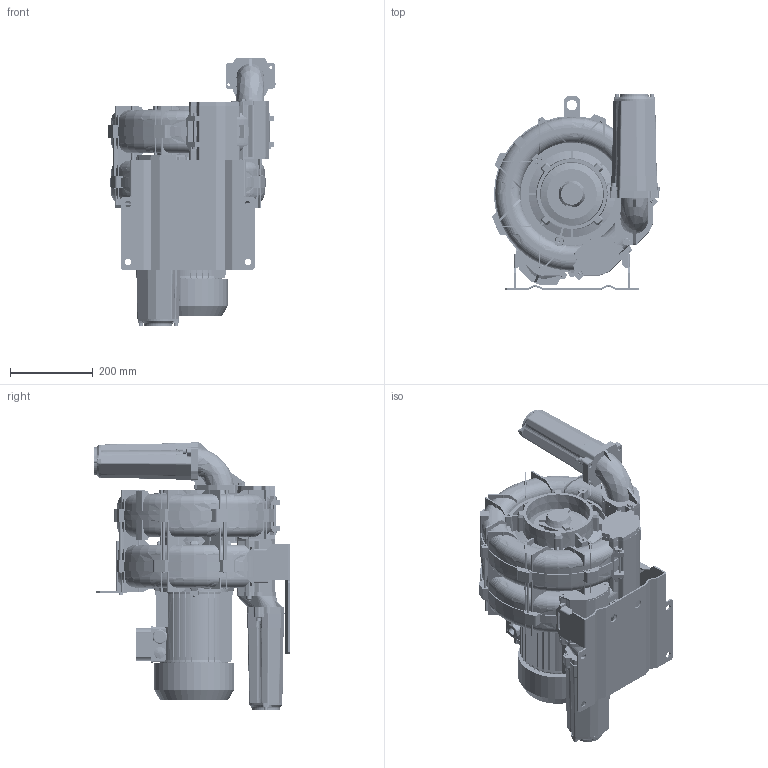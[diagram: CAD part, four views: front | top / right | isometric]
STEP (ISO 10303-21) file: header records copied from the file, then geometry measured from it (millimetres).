
FILE_DESCRIPTION (( 'STEP AP203' ), '1' );
FILE_NAME ('STP-L_e_06_TD_MOR_IE3WR_100_4.0kW-3_25-00.step', '2025-03-03T13:08:28', ( '' ), ( '' ), 'SwSTEP 2.0', 'SolidWorks 2024', '' );
FILE_SCHEMA (( 'CONFIG_CONTROL_DESIGN' ));
Products named in the file (1): STP-L_e_06_TD_MOR_IE3WR_100_4.0kW-3_25-00
Bounding box: 404.92 x 473.97 x 649 mm (x, y, z)
Volume: 30004929.7 mm3; surface area: 2727090.4 mm2
Topology: 103 solids, 103 shells, 5243 faces, 14062 edges, 9032 vertices
Faces by surface type: plane 2590, cylinder 1477, cone 635, bspline 287, torus 253, sphere 1
Full cylindrical faces by diameter (mm): 4 x8, 4.917 x11, 5 x9, 6 x20, 6.4 x20, 6.5 x1, 6.8 x9, 7.5 x4, 8 x68, 8.4 x8, 8.5 x10, 9 x5, 9.5 x4, 10 x45, 11 x2, 13 x14, 15 x4, 15.842 x1, 15.965 x1, 16 x8, 18 x2, 20 x1, 21.4 x1, 22 x2, 24 x4, 25 x4, 28 x1, 57 x2, 73 x3, 80 x1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
Entity records: 175527 total; most frequent: CARTESIAN_POINT 50167, ORIENTED_EDGE 26382, DIRECTION 25116, EDGE_CURVE 13191, AXIS2_PLACEMENT_3D 9004, VERTEX_POINT 8847, VECTOR 7108, LINE 7108
